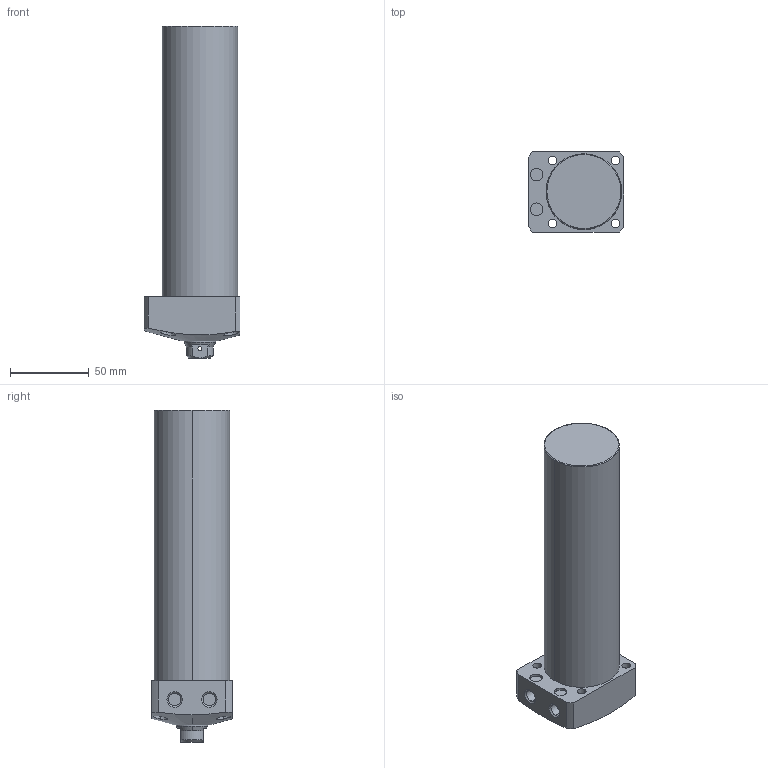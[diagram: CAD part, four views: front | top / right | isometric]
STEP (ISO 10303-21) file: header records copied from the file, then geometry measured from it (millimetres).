
FILE_DESCRIPTION (( 'STEP AP203' ), '1' );
FILE_NAME ('CLL-048CB-145.STEP', '2019-12-21T07:54:22', ( '' ), ( '' ), 'SwSTEP 2.0', 'SolidWorks 2015', '' );
FILE_SCHEMA (( 'CONFIG_CONTROL_DESIGN' ));
Length unit declared in the file: millimetre
Products named in the file (1): CLL-048CB-145
Bounding box: 61 x 51 x 211 mm (x, y, z)
Volume: 385408.3 mm3; surface area: 40752 mm2
Topology: 1 solids, 1 shells, 78 faces, 182 edges, 115 vertices
Faces by surface type: cylinder 39, plane 22, cone 15, torus 2
Entity records: 2751 total; most frequent: CARTESIAN_POINT 852, DIRECTION 394, ORIENTED_EDGE 360, EDGE_CURVE 180, AXIS2_PLACEMENT_3D 163, VERTEX_POINT 115, EDGE_LOOP 101, CIRCLE 84
